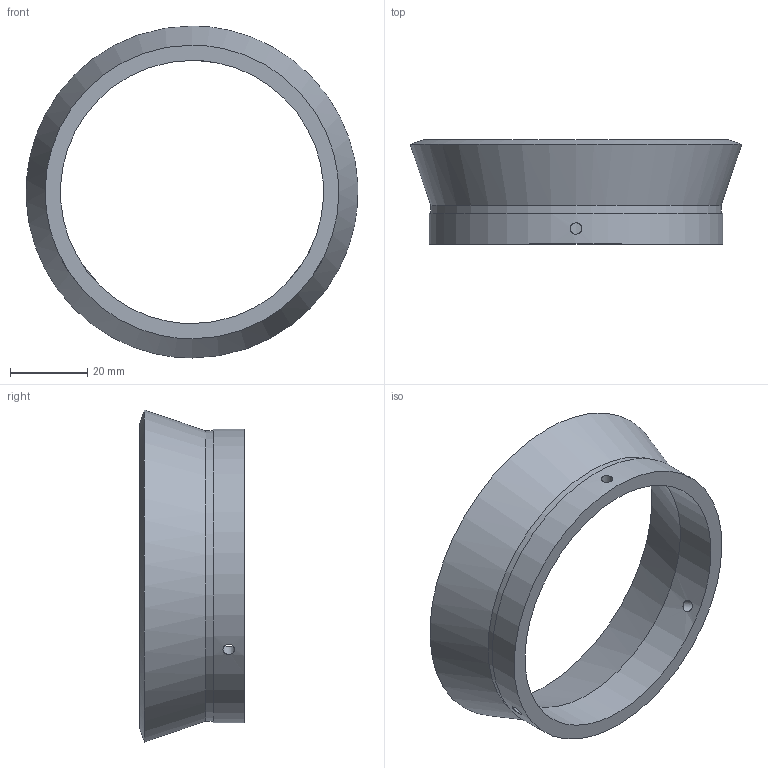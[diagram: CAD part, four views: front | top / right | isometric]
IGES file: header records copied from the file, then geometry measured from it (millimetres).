
Global section: file name: 153-13550_LM 100 W DF; native system: Autodesk Inventor 2018; preprocessor: unknown; date: 20180726.112257; units: millimetre
Bounding box: 85.65 x 27 x 85.8 mm (x, y, z)
Volume: 24030.8 mm3; surface area: 14870.1 mm2
Topology: 1 solids, 1 shells, 11 faces, 41 edges, 30 vertices
Faces by surface type: bspline 11
